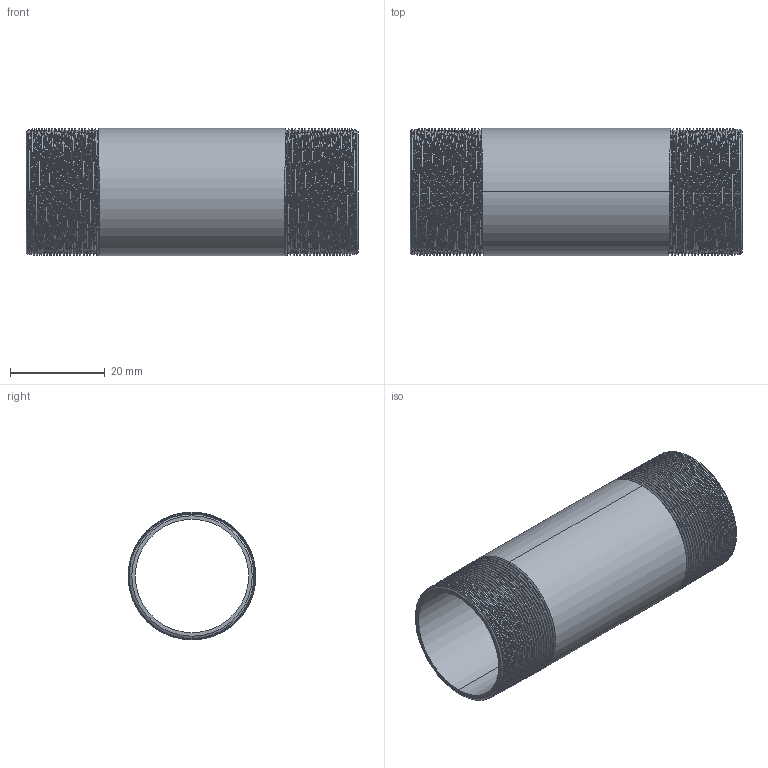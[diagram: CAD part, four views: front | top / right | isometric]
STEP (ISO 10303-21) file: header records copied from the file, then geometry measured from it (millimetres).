
FILE_DESCRIPTION (( 'STEP AP203' ), '1' );
FILE_NAME ('3D_R210_3-4x70_17185696.STEP', '2024-08-16T11:11:15', ( '' ), ( '' ), 'SwSTEP 2.0', 'SolidWorks 2024', '' );
FILE_SCHEMA (( 'CONFIG_CONTROL_DESIGN' ));
Length unit declared in the file: millimetre
Products named in the file (1): 3D_R210_3-4x70_17185696
Bounding box: 70 x 26.89 x 26.9 mm (x, y, z)
Volume: 7811.8 mm3; surface area: 12491.6 mm2
Topology: 1 solids, 1 shells, 106 faces, 304 edges, 200 vertices
Faces by surface type: cone 92, bspline 6, cylinder 4, plane 4
Entity records: 16481 total; most frequent: CARTESIAN_POINT 14027, ORIENTED_EDGE 608, DIRECTION 328, EDGE_CURVE 304, VERTEX_POINT 200, B_SPLINE_CURVE_WITH_KNOTS 182, AXIS2_PLACEMENT_3D 113, EDGE_LOOP 108
